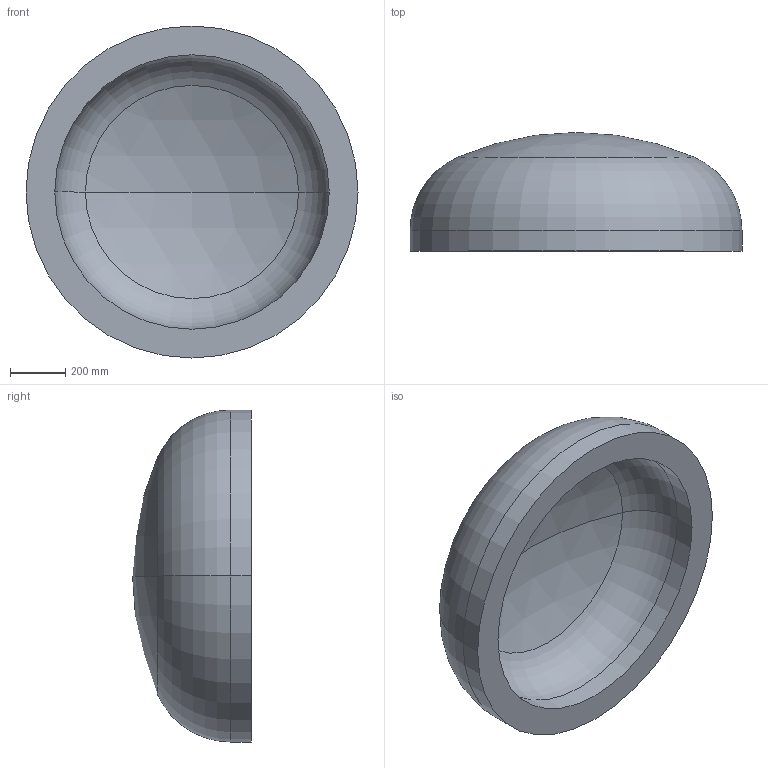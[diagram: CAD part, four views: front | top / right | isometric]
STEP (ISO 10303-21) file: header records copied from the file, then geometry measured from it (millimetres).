
FILE_DESCRIPTION (( 'STEP AP203' ), '1' );
FILE_NAME ('DIN 28013 Korbbogenform_-_Boden DIN 28013 - 1200 x 75 - I - s=104.step', '2016-07-01T09:38:16', ( '' ), ( '' ), 'SwSTEP 2.0', 'SolidWorks 2013', '' );
FILE_SCHEMA (( 'CONFIG_CONTROL_DESIGN' ));
Length unit declared in the file: millimetre
Products named in the file (1): DIN 28013 Korbbogenform_-_Boden DIN 28013 - 1200 x 75 - I - s=104
Bounding box: 1200 x 429.14 x 1200 mm (x, y, z)
Volume: 173080229.7 mm3; surface area: 3709209.6 mm2
Topology: 1 solids, 1 shells, 13 faces, 24 edges, 14 vertices
Faces by surface type: torus 4, cylinder 4, sphere 4, plane 1
Entity records: 407 total; most frequent: DIRECTION 72, CARTESIAN_POINT 52, ORIENTED_EDGE 48, AXIS2_PLACEMENT_3D 34, EDGE_CURVE 24, CIRCLE 20, VERTEX_POINT 14, EDGE_LOOP 14
